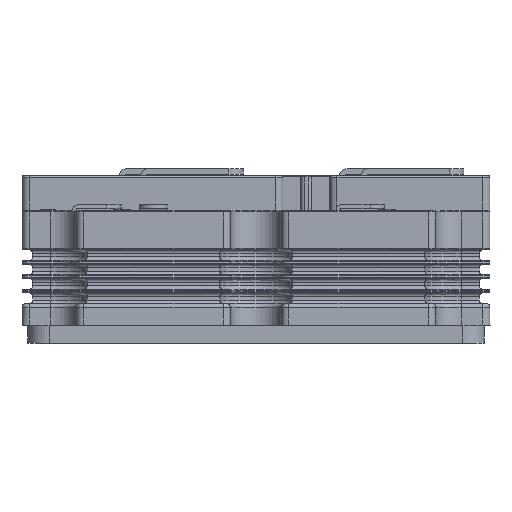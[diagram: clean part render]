
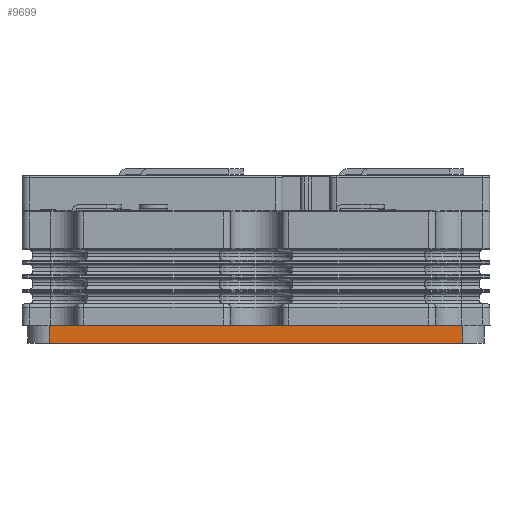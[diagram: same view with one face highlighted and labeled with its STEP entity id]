
A CAD part, front view. The second image highlights one B-rep face of the part: STEP entity #9699.
In plain terms, the highlighted planar face has unit normal (0, -1, 0).
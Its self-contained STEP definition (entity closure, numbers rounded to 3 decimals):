
#8832 = VERTEX_POINT ( 'NONE', #37674 ) ;
#8955 = VERTEX_POINT ( 'NONE', #37986 ) ;
#8966 = EDGE_CURVE ( 'NONE', #8955, #8832, #37935, .T. ) ;
#9303 = EDGE_CURVE ( 'NONE', #9715, #8955, #39588, .T. ) ;
#9312 = VERTEX_POINT ( 'NONE', #39540 ) ;
#9318 = EDGE_CURVE ( 'NONE', #9312, #8832, #39534, .T. ) ;
#9324 = ORIENTED_EDGE ( 'NONE', *, *, #9393, .T. ) ;
#9387 = ORIENTED_EDGE ( 'NONE', *, *, #9318, .F. ) ;
#9392 = ORIENTED_EDGE ( 'NONE', *, *, #9783, .T. ) ;
#9393 = EDGE_CURVE ( 'NONE', #9779, #9618, #39638, .T. ) ;
#9396 = EDGE_CURVE ( 'NONE', #9618, #9715, #39006, .T. ) ;
#9403 = ORIENTED_EDGE ( 'NONE', *, *, #9396, .T. ) ;
#9618 = VERTEX_POINT ( 'NONE', #40211 ) ;
#9621 = EDGE_LOOP ( 'NONE', ( #9697, #9387, #9703, #9701, #9392, #9324, #9403, #9693 ) ) ;
#9693 = ORIENTED_EDGE ( 'NONE', *, *, #9303, .T. ) ;
#9695 = VERTEX_POINT ( 'NONE', #40530 ) ;
#9697 = ORIENTED_EDGE ( 'NONE', *, *, #8966, .T. ) ;
#9699 = ADVANCED_FACE ( 'NONE', ( #40320 ), #40523, .T. ) ;
#9701 = ORIENTED_EDGE ( 'NONE', *, *, #9707, .T. ) ;
#9703 = ORIENTED_EDGE ( 'NONE', *, *, #9705, .T. ) ;
#9705 = EDGE_CURVE ( 'NONE', #9312, #9709, #40331, .T. ) ;
#9707 = EDGE_CURVE ( 'NONE', #9709, #9695, #40315, .T. ) ;
#9709 = VERTEX_POINT ( 'NONE', #40335 ) ;
#9715 = VERTEX_POINT ( 'NONE', #40423 ) ;
#9779 = VERTEX_POINT ( 'NONE', #40447 ) ;
#9783 = EDGE_CURVE ( 'NONE', #9695, #9779, #39769, .T. ) ;
#37674 = CARTESIAN_POINT ( 'NONE',  ( 57.45, -68.45, 0. ) ) ;
#37935 = LINE ( 'NONE', #38105, #38100 ) ;
#37986 = CARTESIAN_POINT ( 'NONE',  ( -57.45, -68.45, 0. ) ) ;
#38099 = DIRECTION ( 'NONE',  ( 1., 0., 0. ) ) ;
#38100 = VECTOR ( 'NONE', #38099, 1000. ) ;
#38105 = CARTESIAN_POINT ( 'NONE',  ( -57.45, -68.45, 0. ) ) ;
#39005 = CARTESIAN_POINT ( 'NONE',  ( -57.45, -68.45, 5. ) ) ;
#39006 = LINE ( 'NONE', #39005, #39030 ) ;
#39024 = DIRECTION ( 'NONE',  ( -1., 0., 0. ) ) ;
#39030 = VECTOR ( 'NONE', #39024, 1000. ) ;
#39534 = LINE ( 'NONE', #39700, #39538 ) ;
#39537 = DIRECTION ( 'NONE',  ( 0., 0., -1. ) ) ;
#39538 = VECTOR ( 'NONE', #39537, 1000. ) ;
#39540 = CARTESIAN_POINT ( 'NONE',  ( 57.45, -68.45, 5. ) ) ;
#39586 = CARTESIAN_POINT ( 'NONE',  ( -57.45, -68.45, 5. ) ) ;
#39588 = LINE ( 'NONE', #39586, #39747 ) ;
#39625 = DIRECTION ( 'NONE',  ( -1., 0., 0. ) ) ;
#39627 = VECTOR ( 'NONE', #39625, 1000. ) ;
#39636 = CARTESIAN_POINT ( 'NONE',  ( -57.45, -68.45, 5. ) ) ;
#39638 = LINE ( 'NONE', #39636, #39627 ) ;
#39693 = DIRECTION ( 'NONE',  ( 0., 0., -1. ) ) ;
#39700 = CARTESIAN_POINT ( 'NONE',  ( 57.45, -68.45, 5. ) ) ;
#39747 = VECTOR ( 'NONE', #39693, 1000. ) ;
#39769 = LINE ( 'NONE', #39773, #39783 ) ;
#39773 = CARTESIAN_POINT ( 'NONE',  ( -57.45, -68.45, 5. ) ) ;
#39774 = DIRECTION ( 'NONE',  ( -1., 0., 0. ) ) ;
#39783 = VECTOR ( 'NONE', #39774, 1000. ) ;
#40211 = CARTESIAN_POINT ( 'NONE',  ( -49.849, -68.45, 5. ) ) ;
#40315 = LINE ( 'NONE', #40434, #40433 ) ;
#40318 = DIRECTION ( 'NONE',  ( -1., 0., 0. ) ) ;
#40319 = VECTOR ( 'NONE', #40318, 1000. ) ;
#40320 = FACE_OUTER_BOUND ( 'NONE', #9621, .T. ) ;
#40330 = CARTESIAN_POINT ( 'NONE',  ( -57.45, -68.45, 5. ) ) ;
#40331 = LINE ( 'NONE', #40330, #40319 ) ;
#40335 = CARTESIAN_POINT ( 'NONE',  ( 49.849, -68.45, 5. ) ) ;
#40423 = CARTESIAN_POINT ( 'NONE',  ( -57.45, -68.45, 5. ) ) ;
#40432 = DIRECTION ( 'NONE',  ( -1., 0., 0. ) ) ;
#40433 = VECTOR ( 'NONE', #40432, 1000. ) ;
#40434 = CARTESIAN_POINT ( 'NONE',  ( -57.45, -68.45, 5. ) ) ;
#40447 = CARTESIAN_POINT ( 'NONE',  ( -7.151, -68.45, 5. ) ) ;
#40478 = DIRECTION ( 'NONE',  ( 1., 0., 0. ) ) ;
#40485 = CARTESIAN_POINT ( 'NONE',  ( -57.45, -68.45, 5. ) ) ;
#40523 = PLANE ( 'NONE',  #40527 ) ;
#40527 = AXIS2_PLACEMENT_3D ( 'NONE', #40485, #40537, #40478 ) ;
#40530 = CARTESIAN_POINT ( 'NONE',  ( 7.151, -68.45, 5. ) ) ;
#40537 = DIRECTION ( 'NONE',  ( 0., -1., 0. ) ) ;
